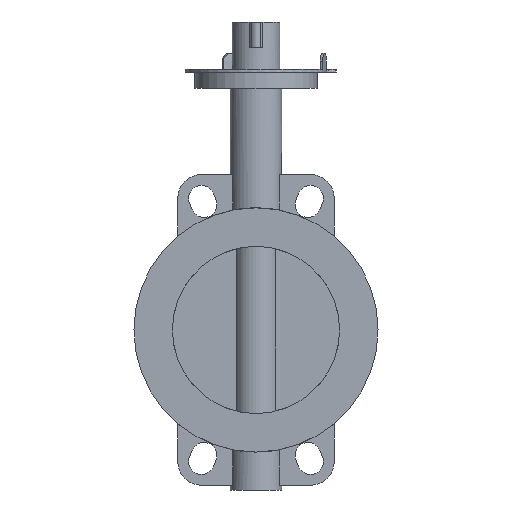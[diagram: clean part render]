
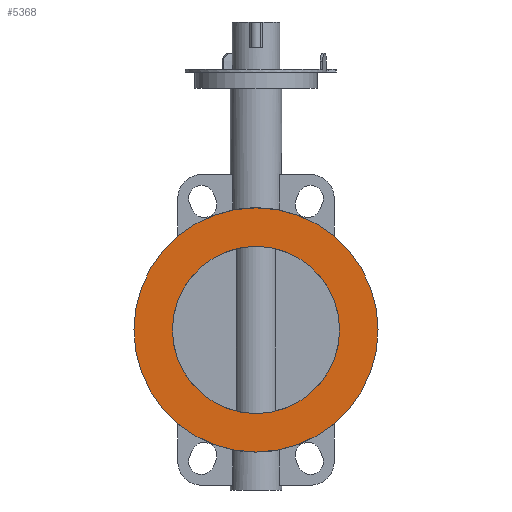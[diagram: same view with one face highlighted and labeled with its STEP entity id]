
A CAD part, left-side view. The second image highlights one B-rep face of the part: STEP entity #5368.
In plain terms, the highlighted planar face has unit normal (-1, 0, 0).
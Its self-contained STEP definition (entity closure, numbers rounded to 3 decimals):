
#5368=ADVANCED_FACE('',(#11082,#11084),#11086,.F.);
#11082=FACE_BOUND('',#11083,.T.);
#11083=EDGE_LOOP('',(#15730));
#11084=FACE_BOUND('',#11085,.T.);
#11085=EDGE_LOOP('',(#15731));
#11086=PLANE('',#11087);
#11087=AXIS2_PLACEMENT_3D('',#11088,#11089,#11090);
#11088=CARTESIAN_POINT('',(-28.,0.,0.));
#11089=DIRECTION('',(1.,0.,0.));
#11090=DIRECTION('',(0.,1.,0.));
#15730=ORIENTED_EDGE('',*,*,#18241,.F.);
#15731=ORIENTED_EDGE('',*,*,#18484,.T.);
#18241=EDGE_CURVE('',#21531,#21531,#21532,.T.);
#18484=EDGE_CURVE('',#21883,#21883,#21884,.T.);
#21531=VERTEX_POINT('',#29190);
#21532=CIRCLE('',#29191,90.);
#21883=VERTEX_POINT('',#30240);
#21884=CIRCLE('',#30241,61.65);
#29190=CARTESIAN_POINT('',(-28.,90.,0.));
#29191=AXIS2_PLACEMENT_3D('',#29192,#29193,#29194);
#29192=CARTESIAN_POINT('',(-28.,0.,0.));
#29193=DIRECTION('',(1.,0.,0.));
#29194=DIRECTION('',(0.,1.,0.));
#30240=CARTESIAN_POINT('',(-28.,61.65,0.));
#30241=AXIS2_PLACEMENT_3D('',#30242,#30243,#30244);
#30242=CARTESIAN_POINT('',(-28.,0.,0.));
#30243=DIRECTION('',(1.,0.,0.));
#30244=DIRECTION('',(0.,1.,0.));
